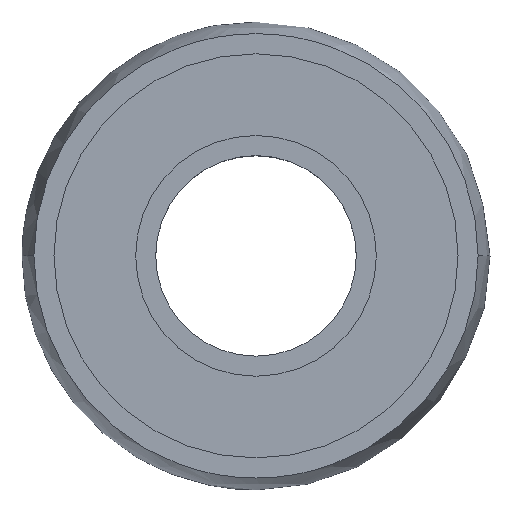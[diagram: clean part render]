
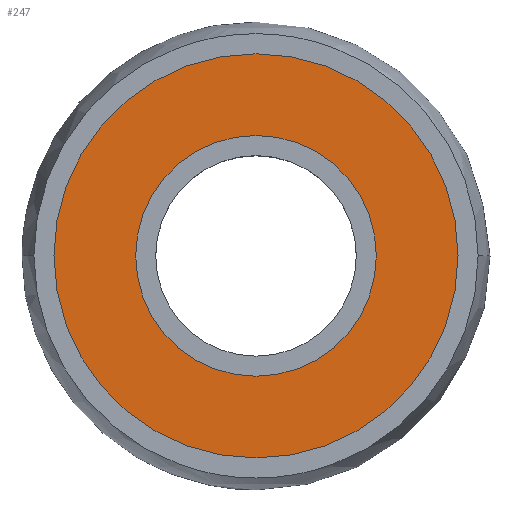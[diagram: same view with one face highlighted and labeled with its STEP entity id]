
A CAD part, top view. The second image highlights one B-rep face of the part: STEP entity #247.
In plain terms, the highlighted planar face has unit normal (0, 0, 1).
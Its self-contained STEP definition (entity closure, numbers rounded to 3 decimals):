
#147 = CARTESIAN_POINT ( 'NONE',  ( 0., 0., 5. ) ) ;
#152 = CARTESIAN_POINT ( 'NONE',  ( -9., 0., 5. ) ) ;
#159 = CIRCLE ( 'NONE', #169, 15.113 ) ;
#169 = AXIS2_PLACEMENT_3D ( 'NONE', #147, #239, #238 ) ;
#218 = DIRECTION ( 'NONE',  ( 1., 0., 0. ) ) ;
#219 = DIRECTION ( 'NONE',  ( 0., 0., 1. ) ) ;
#220 = AXIS2_PLACEMENT_3D ( 'NONE', #229, #219, #218 ) ;
#221 = CIRCLE ( 'NONE', #220, 9. ) ;
#225 = DIRECTION ( 'NONE',  ( 1., 0., 0. ) ) ;
#226 = DIRECTION ( 'NONE',  ( 0., 0., 1. ) ) ;
#227 = AXIS2_PLACEMENT_3D ( 'NONE', #235, #226, #225 ) ;
#228 = CIRCLE ( 'NONE', #227, 9. ) ;
#229 = CARTESIAN_POINT ( 'NONE',  ( 0., 0., 5. ) ) ;
#233 = CARTESIAN_POINT ( 'NONE',  ( -15.113, 0., 5. ) ) ;
#235 = CARTESIAN_POINT ( 'NONE',  ( 0., 0., 5. ) ) ;
#236 = CARTESIAN_POINT ( 'NONE',  ( 15.113, 0., 5. ) ) ;
#238 = DIRECTION ( 'NONE',  ( 1., 0., 0. ) ) ;
#239 = DIRECTION ( 'NONE',  ( 0., 0., 1. ) ) ;
#242 = ORIENTED_EDGE ( 'NONE', *, *, #375, .F. ) ;
#247 = ADVANCED_FACE ( 'NONE', ( #437, #477 ), #439, .F. ) ;
#248 = VERTEX_POINT ( 'NONE', #443 ) ;
#249 = EDGE_LOOP ( 'NONE', ( #250, #253 ) ) ;
#250 = ORIENTED_EDGE ( 'NONE', *, *, #372, .T. ) ;
#253 = ORIENTED_EDGE ( 'NONE', *, *, #341, .T. ) ;
#263 = CARTESIAN_POINT ( 'NONE',  ( 0., 0., 5. ) ) ;
#315 = ORIENTED_EDGE ( 'NONE', *, *, #381, .F. ) ;
#341 = EDGE_CURVE ( 'NONE', #379, #376, #510, .T. ) ;
#372 = EDGE_CURVE ( 'NONE', #376, #379, #159, .T. ) ;
#373 = EDGE_LOOP ( 'NONE', ( #315, #242 ) ) ;
#375 = EDGE_CURVE ( 'NONE', #380, #248, #228, .T. ) ;
#376 = VERTEX_POINT ( 'NONE', #236 ) ;
#379 = VERTEX_POINT ( 'NONE', #233 ) ;
#380 = VERTEX_POINT ( 'NONE', #152 ) ;
#381 = EDGE_CURVE ( 'NONE', #248, #380, #221, .T. ) ;
#421 = AXIS2_PLACEMENT_3D ( 'NONE', #474, #473, #428 ) ;
#428 = DIRECTION ( 'NONE',  ( -1., 0., 0. ) ) ;
#437 = FACE_BOUND ( 'NONE', #373, .T. ) ;
#439 = PLANE ( 'NONE',  #421 ) ;
#443 = CARTESIAN_POINT ( 'NONE',  ( 9., 0., 5. ) ) ;
#457 = DIRECTION ( 'NONE',  ( 1., 0., 0. ) ) ;
#473 = DIRECTION ( 'NONE',  ( 0., 0., -1. ) ) ;
#474 = CARTESIAN_POINT ( 'NONE',  ( -15.113, 0., 5. ) ) ;
#477 = FACE_OUTER_BOUND ( 'NONE', #249, .T. ) ;
#486 = DIRECTION ( 'NONE',  ( 0., 0., 1. ) ) ;
#509 = AXIS2_PLACEMENT_3D ( 'NONE', #263, #486, #457 ) ;
#510 = CIRCLE ( 'NONE', #509, 15.113 ) ;
